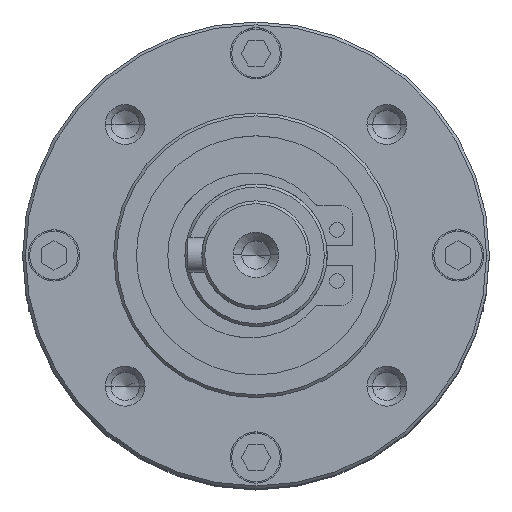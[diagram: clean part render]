
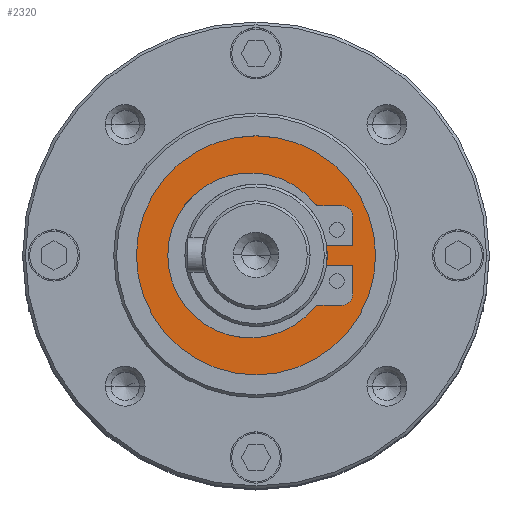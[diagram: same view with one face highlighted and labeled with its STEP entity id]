
A CAD part, top view. The second image highlights one B-rep face of the part: STEP entity #2320.
In plain terms, the highlighted planar face has unit normal (0, 0, 1).
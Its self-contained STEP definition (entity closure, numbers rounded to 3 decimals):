
#35 = LINE ( 'NONE', #7366, #6257 ) ;
#168 = CARTESIAN_POINT ( 'NONE',  ( 0., 0., 211.2 ) ) ;
#177 = EDGE_CURVE ( 'NONE', #6711, #7187, #244, .T. ) ;
#207 = CARTESIAN_POINT ( 'NONE',  ( 17., -1.698, 211.2 ) ) ;
#231 = VECTOR ( 'NONE', #7951, 1000. ) ;
#244 = CIRCLE ( 'NONE', #6521, 14.5 ) ;
#283 = EDGE_CURVE ( 'NONE', #698, #1683, #35, .T. ) ;
#295 = CARTESIAN_POINT ( 'NONE',  ( 17., 6.75, 211.2 ) ) ;
#298 = CARTESIAN_POINT ( 'NONE',  ( 0., 0., 211.2 ) ) ;
#407 = VECTOR ( 'NONE', #1310, 1000. ) ;
#504 = EDGE_LOOP ( 'NONE', ( #2789, #4600 ) ) ;
#561 = CIRCLE ( 'NONE', #1332, 21. ) ;
#597 = DIRECTION ( 'NONE',  ( 1., 0., 0. ) ) ;
#657 = VECTOR ( 'NONE', #597, 1000. ) ;
#698 = VERTEX_POINT ( 'NONE', #207 ) ;
#759 = ORIENTED_EDGE ( 'NONE', *, *, #2211, .F. ) ;
#802 = CARTESIAN_POINT ( 'NONE',  ( -1., 0., 211.2 ) ) ;
#848 = VERTEX_POINT ( 'NONE', #5517 ) ;
#1054 = EDGE_CURVE ( 'NONE', #7786, #698, #8758, .T. ) ;
#1057 = DIRECTION ( 'NONE',  ( -1., 0., 0. ) ) ;
#1101 = DIRECTION ( 'NONE',  ( 1., 0., 0. ) ) ;
#1167 = ORIENTED_EDGE ( 'NONE', *, *, #7840, .F. ) ;
#1265 = CARTESIAN_POINT ( 'NONE',  ( 11.049, -8.75, 211.2 ) ) ;
#1310 = DIRECTION ( 'NONE',  ( 1., 0., 0. ) ) ;
#1332 = AXIS2_PLACEMENT_3D ( 'NONE', #8199, #3000, #2954 ) ;
#1339 = ORIENTED_EDGE ( 'NONE', *, *, #7812, .F. ) ;
#1418 = EDGE_CURVE ( 'NONE', #8975, #8601, #2253, .T. ) ;
#1549 = ORIENTED_EDGE ( 'NONE', *, *, #177, .F. ) ;
#1575 = CIRCLE ( 'NONE', #9216, 1. ) ;
#1683 = VERTEX_POINT ( 'NONE', #2712 ) ;
#2097 = CIRCLE ( 'NONE', #7449, 12.5 ) ;
#2189 = DIRECTION ( 'NONE',  ( 0., 0., 1. ) ) ;
#2211 = EDGE_CURVE ( 'NONE', #5826, #6206, #8149, .T. ) ;
#2253 = CIRCLE ( 'NONE', #8823, 21. ) ;
#2287 = ORIENTED_EDGE ( 'NONE', *, *, #8298, .F. ) ;
#2320 = ADVANCED_FACE ( 'NONE', ( #6102, #7584 ), #3137, .T. ) ;
#2358 = DIRECTION ( 'NONE',  ( 0., 0., 1. ) ) ;
#2384 = AXIS2_PLACEMENT_3D ( 'NONE', #9307, #2762, #6588 ) ;
#2428 = VERTEX_POINT ( 'NONE', #6300 ) ;
#2533 = DIRECTION ( 'NONE',  ( 0., 0., 1. ) ) ;
#2568 = ORIENTED_EDGE ( 'NONE', *, *, #283, .F. ) ;
#2712 = CARTESIAN_POINT ( 'NONE',  ( 12.384, -1.698, 211.2 ) ) ;
#2762 = DIRECTION ( 'NONE',  ( 0., 0., -1. ) ) ;
#2769 = CARTESIAN_POINT ( 'NONE',  ( -15.5, 0., 211.2 ) ) ;
#2789 = ORIENTED_EDGE ( 'NONE', *, *, #8339, .T. ) ;
#2802 = CARTESIAN_POINT ( 'NONE',  ( 11.049, 8.75, 211.2 ) ) ;
#2938 = CARTESIAN_POINT ( 'NONE',  ( 17., 1.7, 211.2 ) ) ;
#2954 = DIRECTION ( 'NONE',  ( 1., 0., 0. ) ) ;
#3000 = DIRECTION ( 'NONE',  ( 0., 0., 1. ) ) ;
#3002 = ORIENTED_EDGE ( 'NONE', *, *, #1054, .F. ) ;
#3137 = PLANE ( 'NONE',  #8099 ) ;
#3258 = CARTESIAN_POINT ( 'NONE',  ( 11.049, -9.75, 211.2 ) ) ;
#3320 = CARTESIAN_POINT ( 'NONE',  ( 12.5, 0., 211.2 ) ) ;
#3353 = CARTESIAN_POINT ( 'NONE',  ( 10.272, 9.121, 211.2 ) ) ;
#3792 = EDGE_CURVE ( 'NONE', #8143, #848, #1575, .T. ) ;
#4501 = EDGE_LOOP ( 'NONE', ( #8038, #2568, #3002, #1339, #7580, #5469, #1167, #1549, #2287, #7328, #7681, #759, #5127, #8774 ) ) ;
#4600 = ORIENTED_EDGE ( 'NONE', *, *, #1418, .T. ) ;
#4619 = DIRECTION ( 'NONE',  ( 1., 0., 0. ) ) ;
#4645 = CARTESIAN_POINT ( 'NONE',  ( 15., 6.75, 211.2 ) ) ;
#4686 = EDGE_CURVE ( 'NONE', #2428, #6807, #6346, .T. ) ;
#4738 = EDGE_CURVE ( 'NONE', #848, #5010, #8532, .T. ) ;
#5003 = LINE ( 'NONE', #6532, #407 ) ;
#5010 = VERTEX_POINT ( 'NONE', #6595 ) ;
#5127 = ORIENTED_EDGE ( 'NONE', *, *, #8166, .F. ) ;
#5139 = CIRCLE ( 'NONE', #5439, 12.5 ) ;
#5227 = DIRECTION ( 'NONE',  ( 0., 0., 1. ) ) ;
#5439 = AXIS2_PLACEMENT_3D ( 'NONE', #298, #5227, #8961 ) ;
#5469 = ORIENTED_EDGE ( 'NONE', *, *, #3792, .F. ) ;
#5492 = CARTESIAN_POINT ( 'NONE',  ( -21., 0., 211.2 ) ) ;
#5517 = CARTESIAN_POINT ( 'NONE',  ( 11.049, -8.75, 211.2 ) ) ;
#5549 = CARTESIAN_POINT ( 'NONE',  ( 15., -6.75, 211.2 ) ) ;
#5604 = CARTESIAN_POINT ( 'NONE',  ( 12.384, 1.7, 211.2 ) ) ;
#5618 = CARTESIAN_POINT ( 'NONE',  ( 10.272, -9.121, 211.2 ) ) ;
#5650 = CARTESIAN_POINT ( 'NONE',  ( 17., -6.75, 211.2 ) ) ;
#5722 = DIRECTION ( 'NONE',  ( -1., 0., 0. ) ) ;
#5826 = VERTEX_POINT ( 'NONE', #2938 ) ;
#5830 = CARTESIAN_POINT ( 'NONE',  ( 17., 6.75, 211.2 ) ) ;
#5893 = EDGE_CURVE ( 'NONE', #6206, #2428, #7373, .T. ) ;
#5912 = CIRCLE ( 'NONE', #2384, 1. ) ;
#5924 = DIRECTION ( 'NONE',  ( 0., 0., 1. ) ) ;
#6052 = CARTESIAN_POINT ( 'NONE',  ( 0., 0., 211.2 ) ) ;
#6056 = DIRECTION ( 'NONE',  ( 1., 0., 0. ) ) ;
#6102 = FACE_OUTER_BOUND ( 'NONE', #504, .T. ) ;
#6206 = VERTEX_POINT ( 'NONE', #295 ) ;
#6257 = VECTOR ( 'NONE', #6644, 1000. ) ;
#6300 = CARTESIAN_POINT ( 'NONE',  ( 15., 8.75, 211.2 ) ) ;
#6346 = LINE ( 'NONE', #2802, #7234 ) ;
#6504 = DIRECTION ( 'NONE',  ( 0., 1., 0. ) ) ;
#6521 = AXIS2_PLACEMENT_3D ( 'NONE', #802, #5924, #6695 ) ;
#6532 = CARTESIAN_POINT ( 'NONE',  ( 12.384, 1.7, 211.2 ) ) ;
#6588 = DIRECTION ( 'NONE',  ( -1., 0., 0. ) ) ;
#6595 = CARTESIAN_POINT ( 'NONE',  ( 15., -8.75, 211.2 ) ) ;
#6644 = DIRECTION ( 'NONE',  ( -1., 0., 0. ) ) ;
#6695 = DIRECTION ( 'NONE',  ( 1., 0., 0. ) ) ;
#6711 = VERTEX_POINT ( 'NONE', #3353 ) ;
#6756 = DIRECTION ( 'NONE',  ( 1., 0., 0. ) ) ;
#6804 = DIRECTION ( 'NONE',  ( 0., 0., -1. ) ) ;
#6807 = VERTEX_POINT ( 'NONE', #8031 ) ;
#6827 = CIRCLE ( 'NONE', #8659, 14.5 ) ;
#6848 = DIRECTION ( 'NONE',  ( -1., 0., 0. ) ) ;
#7047 = CARTESIAN_POINT ( 'NONE',  ( 21., 0., 211.2 ) ) ;
#7187 = VERTEX_POINT ( 'NONE', #2769 ) ;
#7234 = VECTOR ( 'NONE', #5722, 1000. ) ;
#7328 = ORIENTED_EDGE ( 'NONE', *, *, #4686, .F. ) ;
#7366 = CARTESIAN_POINT ( 'NONE',  ( 17., -1.698, 211.2 ) ) ;
#7373 = CIRCLE ( 'NONE', #8583, 2. ) ;
#7449 = AXIS2_PLACEMENT_3D ( 'NONE', #6052, #2358, #4619 ) ;
#7580 = ORIENTED_EDGE ( 'NONE', *, *, #4738, .F. ) ;
#7584 = FACE_BOUND ( 'NONE', #4501, .T. ) ;
#7654 = CARTESIAN_POINT ( 'NONE',  ( -1., 0., 211.2 ) ) ;
#7681 = ORIENTED_EDGE ( 'NONE', *, *, #5893, .F. ) ;
#7786 = VERTEX_POINT ( 'NONE', #5650 ) ;
#7795 = DIRECTION ( 'NONE',  ( 0., 0., 1. ) ) ;
#7812 = EDGE_CURVE ( 'NONE', #5010, #7786, #8340, .T. ) ;
#7840 = EDGE_CURVE ( 'NONE', #7187, #8143, #6827, .T. ) ;
#7891 = VERTEX_POINT ( 'NONE', #5604 ) ;
#7951 = DIRECTION ( 'NONE',  ( 0., 1., 0. ) ) ;
#7957 = EDGE_CURVE ( 'NONE', #8113, #7891, #5139, .T. ) ;
#8031 = CARTESIAN_POINT ( 'NONE',  ( 11.049, 8.75, 211.2 ) ) ;
#8038 = ORIENTED_EDGE ( 'NONE', *, *, #8392, .F. ) ;
#8069 = DIRECTION ( 'NONE',  ( 1., 0., 0. ) ) ;
#8099 = AXIS2_PLACEMENT_3D ( 'NONE', #168, #9018, #6056 ) ;
#8113 = VERTEX_POINT ( 'NONE', #3320 ) ;
#8143 = VERTEX_POINT ( 'NONE', #5618 ) ;
#8149 = LINE ( 'NONE', #5830, #8612 ) ;
#8166 = EDGE_CURVE ( 'NONE', #7891, #5826, #5003, .T. ) ;
#8199 = CARTESIAN_POINT ( 'NONE',  ( 0., 0., 211.2 ) ) ;
#8298 = EDGE_CURVE ( 'NONE', #6807, #6711, #5912, .T. ) ;
#8339 = EDGE_CURVE ( 'NONE', #8601, #8975, #561, .T. ) ;
#8340 = CIRCLE ( 'NONE', #9105, 2. ) ;
#8392 = EDGE_CURVE ( 'NONE', #1683, #8113, #2097, .T. ) ;
#8462 = DIRECTION ( 'NONE',  ( 0., 0., 1. ) ) ;
#8532 = LINE ( 'NONE', #1265, #657 ) ;
#8583 = AXIS2_PLACEMENT_3D ( 'NONE', #4645, #2533, #6848 ) ;
#8601 = VERTEX_POINT ( 'NONE', #7047 ) ;
#8612 = VECTOR ( 'NONE', #6504, 1000. ) ;
#8659 = AXIS2_PLACEMENT_3D ( 'NONE', #7654, #7795, #1101 ) ;
#8675 = CARTESIAN_POINT ( 'NONE',  ( 17., -1.698, 211.2 ) ) ;
#8758 = LINE ( 'NONE', #8675, #231 ) ;
#8774 = ORIENTED_EDGE ( 'NONE', *, *, #7957, .F. ) ;
#8823 = AXIS2_PLACEMENT_3D ( 'NONE', #8833, #2189, #8069 ) ;
#8833 = CARTESIAN_POINT ( 'NONE',  ( 0., 0., 211.2 ) ) ;
#8961 = DIRECTION ( 'NONE',  ( 1., 0., 0. ) ) ;
#8975 = VERTEX_POINT ( 'NONE', #5492 ) ;
#9018 = DIRECTION ( 'NONE',  ( 0., 0., 1. ) ) ;
#9105 = AXIS2_PLACEMENT_3D ( 'NONE', #5549, #8462, #1057 ) ;
#9216 = AXIS2_PLACEMENT_3D ( 'NONE', #3258, #6804, #6756 ) ;
#9307 = CARTESIAN_POINT ( 'NONE',  ( 11.049, 9.75, 211.2 ) ) ;
